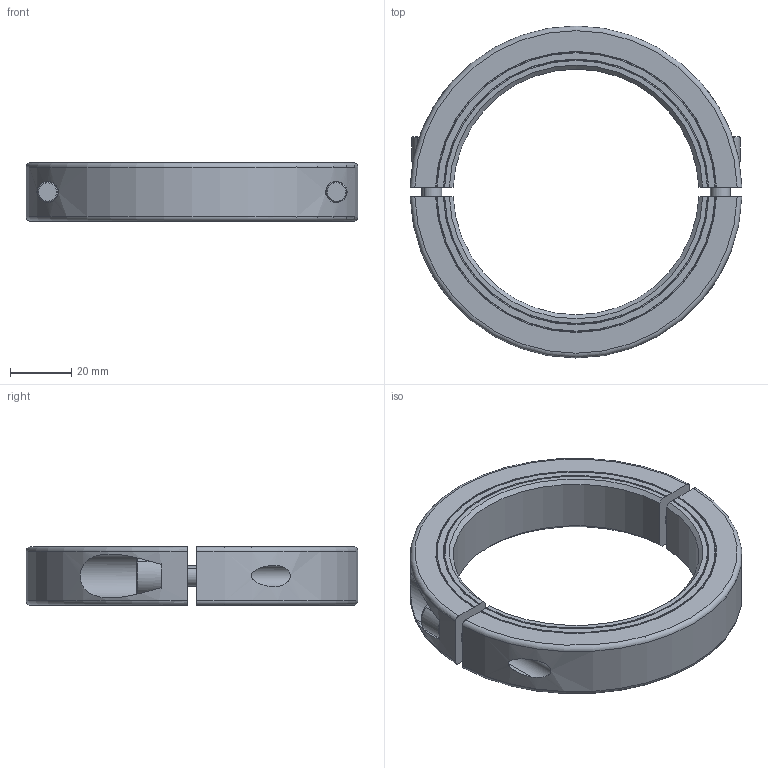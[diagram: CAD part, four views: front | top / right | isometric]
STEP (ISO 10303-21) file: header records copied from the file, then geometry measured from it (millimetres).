
FILE_DESCRIPTION((''),'2;1');
FILE_NAME('MSP-80-X','2016-09-09T',('SYSTEM'),(''),'PRO/ENGINEER BY PARAMETRIC TECHNOLOGY CORPORATION, 2015110','PRO/ENGINEER BY PARAMETRIC TECHNOLOGY CORPORATION, 2015110','');
FILE_SCHEMA(('AUTOMOTIVE_DESIGN { 1 0 10303 214 1 1 1 1 }'));
Length unit declared in the file: inch
Products named in the file (1): MSP-80-X
Bounding box: 107.95 x 108 x 19 mm (x, y, z)
Volume: 71816.3 mm3; surface area: 23478.6 mm2
Topology: 2 solids, 2 shells, 90 faces, 222 edges, 144 vertices
Faces by surface type: plane 36, cylinder 26, cone 20, torus 8
Entity records: 3579 total; most frequent: CARTESIAN_POINT 769, ORIENTED_EDGE 444, DIRECTION 430, EDGE_CURVE 222, AXIS2_PLACEMENT_3D 168, VERTEX_POINT 144, EDGE_LOOP 102, VECTOR 94
